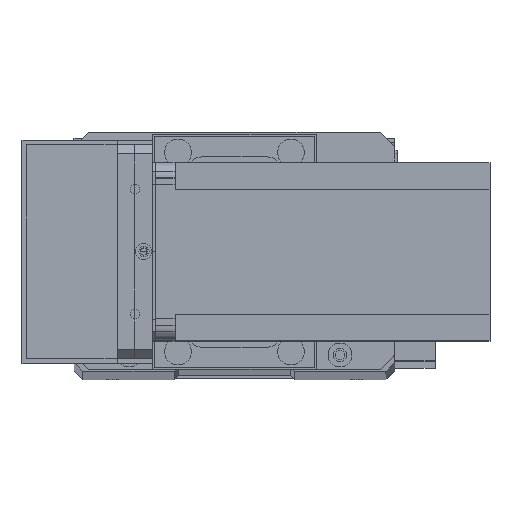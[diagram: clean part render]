
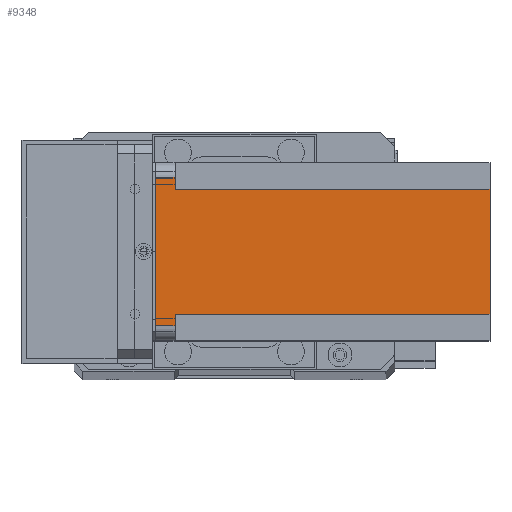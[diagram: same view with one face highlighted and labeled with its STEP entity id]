
A CAD part, top view. The second image highlights one B-rep face of the part: STEP entity #9348.
In plain terms, the highlighted planar face has unit normal (0, 0, 1) as drawn and (1, 0, 0) by its records, which use the part's own axes.
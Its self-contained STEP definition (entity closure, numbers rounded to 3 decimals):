
#190 = PLANE ( 'NONE',  #18865 ) ;
#255 = VERTEX_POINT ( 'NONE', #6619 ) ;
#296 = DIRECTION ( 'NONE',  ( 1., 0., 0. ) ) ;
#525 = LINE ( 'NONE', #873, #6299 ) ;
#605 = CARTESIAN_POINT ( 'NONE',  ( 60., 5., 0. ) ) ;
#873 = CARTESIAN_POINT ( 'NONE',  ( 60., 60., -6.5 ) ) ;
#1053 = FACE_OUTER_BOUND ( 'NONE', #1835, .T. ) ;
#1178 = ORIENTED_EDGE ( 'NONE', *, *, #10903, .T. ) ;
#1694 = EDGE_CURVE ( 'NONE', #4494, #9775, #26537, .T. ) ;
#1830 = VERTEX_POINT ( 'NONE', #9875 ) ;
#1835 = EDGE_LOOP ( 'NONE', ( #9840, #2663, #23379, #1178, #24427, #5810, #13833, #24054 ) ) ;
#2030 = CARTESIAN_POINT ( 'NONE',  ( 60., 9., -112.5 ) ) ;
#2171 = DIRECTION ( 'NONE',  ( 0., 0., -1. ) ) ;
#2356 = VECTOR ( 'NONE', #2171, 1000. ) ;
#2663 = ORIENTED_EDGE ( 'NONE', *, *, #25707, .T. ) ;
#3355 = VECTOR ( 'NONE', #14739, 1000. ) ;
#4494 = VERTEX_POINT ( 'NONE', #2030 ) ;
#5810 = ORIENTED_EDGE ( 'NONE', *, *, #1694, .F. ) ;
#6299 = VECTOR ( 'NONE', #20590, 1000. ) ;
#6619 = CARTESIAN_POINT ( 'NONE',  ( 60., 51., -6.5 ) ) ;
#9348 = ADVANCED_FACE ( 'NONE', ( #1053 ), #190, .T. ) ;
#9775 = VERTEX_POINT ( 'NONE', #27105 ) ;
#9840 = ORIENTED_EDGE ( 'NONE', *, *, #28988, .F. ) ;
#9875 = CARTESIAN_POINT ( 'NONE',  ( 60., 55., 0. ) ) ;
#10367 = VECTOR ( 'NONE', #30123, 1000. ) ;
#10592 = VECTOR ( 'NONE', #23372, 1000. ) ;
#10785 = VERTEX_POINT ( 'NONE', #31247 ) ;
#10903 = EDGE_CURVE ( 'NONE', #21176, #14626, #24531, .T. ) ;
#11141 = LINE ( 'NONE', #27751, #10367 ) ;
#13192 = CARTESIAN_POINT ( 'NONE',  ( 60., 51., -112.5 ) ) ;
#13499 = VECTOR ( 'NONE', #16549, 1000. ) ;
#13833 = ORIENTED_EDGE ( 'NONE', *, *, #14516, .T. ) ;
#14516 = EDGE_CURVE ( 'NONE', #4494, #30483, #20849, .T. ) ;
#14626 = VERTEX_POINT ( 'NONE', #24328 ) ;
#14739 = DIRECTION ( 'NONE',  ( 0., -1., 0. ) ) ;
#16549 = DIRECTION ( 'NONE',  ( 0., 1., 0. ) ) ;
#16911 = CARTESIAN_POINT ( 'NONE',  ( 60., 51., -112.5 ) ) ;
#17098 = CARTESIAN_POINT ( 'NONE',  ( 60., 0., -6.5 ) ) ;
#17501 = DIRECTION ( 'NONE',  ( 0., 1., 0. ) ) ;
#18149 = EDGE_CURVE ( 'NONE', #9775, #14626, #18778, .T. ) ;
#18778 = LINE ( 'NONE', #17098, #3355 ) ;
#18865 = AXIS2_PLACEMENT_3D ( 'NONE', #29805, #296, #17501 ) ;
#19052 = CARTESIAN_POINT ( 'NONE',  ( 60., 0., -112.5 ) ) ;
#19327 = CARTESIAN_POINT ( 'NONE',  ( 60., 9., -112.5 ) ) ;
#19438 = DIRECTION ( 'NONE',  ( 0., 0., 1. ) ) ;
#20590 = DIRECTION ( 'NONE',  ( 0., -1., 0. ) ) ;
#20797 = CARTESIAN_POINT ( 'NONE',  ( 60., 0., 0. ) ) ;
#20849 = LINE ( 'NONE', #19052, #13499 ) ;
#21176 = VERTEX_POINT ( 'NONE', #605 ) ;
#21267 = LINE ( 'NONE', #16911, #2356 ) ;
#23372 = DIRECTION ( 'NONE',  ( 0., 1., 0. ) ) ;
#23379 = ORIENTED_EDGE ( 'NONE', *, *, #31633, .F. ) ;
#24054 = ORIENTED_EDGE ( 'NONE', *, *, #24358, .F. ) ;
#24313 = DIRECTION ( 'NONE',  ( 0., 0., -1. ) ) ;
#24328 = CARTESIAN_POINT ( 'NONE',  ( 60., 5., -6.5 ) ) ;
#24358 = EDGE_CURVE ( 'NONE', #255, #30483, #21267, .T. ) ;
#24427 = ORIENTED_EDGE ( 'NONE', *, *, #18149, .F. ) ;
#24531 = LINE ( 'NONE', #26693, #29540 ) ;
#25707 = EDGE_CURVE ( 'NONE', #10785, #1830, #11141, .T. ) ;
#25745 = VECTOR ( 'NONE', #19438, 1000. ) ;
#26537 = LINE ( 'NONE', #19327, #25745 ) ;
#26693 = CARTESIAN_POINT ( 'NONE',  ( 60., 5., -112.5 ) ) ;
#27105 = CARTESIAN_POINT ( 'NONE',  ( 60., 9., -6.5 ) ) ;
#27751 = CARTESIAN_POINT ( 'NONE',  ( 60., 55., -112.5 ) ) ;
#28988 = EDGE_CURVE ( 'NONE', #10785, #255, #525, .T. ) ;
#29540 = VECTOR ( 'NONE', #24313, 1000. ) ;
#29805 = CARTESIAN_POINT ( 'NONE',  ( 60., 0., -112.5 ) ) ;
#30123 = DIRECTION ( 'NONE',  ( 0., 0., 1. ) ) ;
#30277 = LINE ( 'NONE', #20797, #10592 ) ;
#30483 = VERTEX_POINT ( 'NONE', #13192 ) ;
#31247 = CARTESIAN_POINT ( 'NONE',  ( 60., 55., -6.5 ) ) ;
#31633 = EDGE_CURVE ( 'NONE', #21176, #1830, #30277, .T. ) ;
